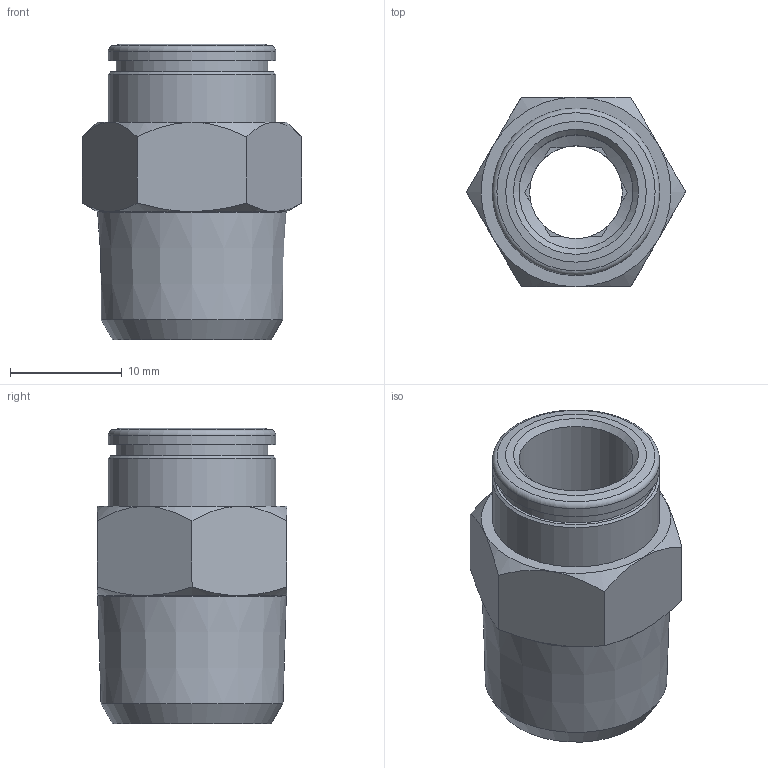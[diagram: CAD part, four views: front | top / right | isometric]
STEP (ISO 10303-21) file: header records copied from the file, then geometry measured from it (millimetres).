
FILE_DESCRIPTION(/* description */ (''),/* implementation_level */ '2;1');
FILE_NAME(/* name */ '200160-ES_STX01K_10_R38_25.05.16',/* time_stamp */ '2016-05-25T09:46:11+02:00',/* author */ (''),/* organization */ (''),/* preprocessor_version */ 'ST-DEVELOPER v14',/* originating_system */ 'HiCAD 2013 1802.4 Build 509',/* authorisation */ '');
FILE_SCHEMA (('AUTOMOTIVE_DESIGN { 1 0 10303 214 1 1 1 1 }'));
Length unit declared in the file: millimetre
Products named in the file (3): Root; R200160-ES-N1; DR10-N
Assembly tree (2 placements, depth 2):
  Root
    R200160-ES-N1
    DR10-N
Bounding box: 19.63 x 17 x 26.5 mm (x, y, z)
Volume: 3361.9 mm3; surface area: 3235.8 mm2
Topology: 2 solids, 2 shells, 66 faces, 150 edges, 92 vertices
Faces by surface type: plane 32, cone 23, cylinder 10, torus 1
Full cylindrical faces by diameter (mm): 8.3 x1, 10.2 x2, 12.3 x1, 13 x1, 13.6 x1, 13.7 x1, 15 x2, 16.893 x1
Entity records: 3088 total; most frequent: DIRECTION 352, CARTESIAN_POINT 282, PRESENTATION_STYLE_ASSIGNMENT 258, OVER_RIDING_STYLED_ITEM 256, COLOUR_RGB 250, DRAUGHTING_PRE_DEFINED_CURVE_FONT 248, CURVE_STYLE 248, ORIENTED_EDGE 248
